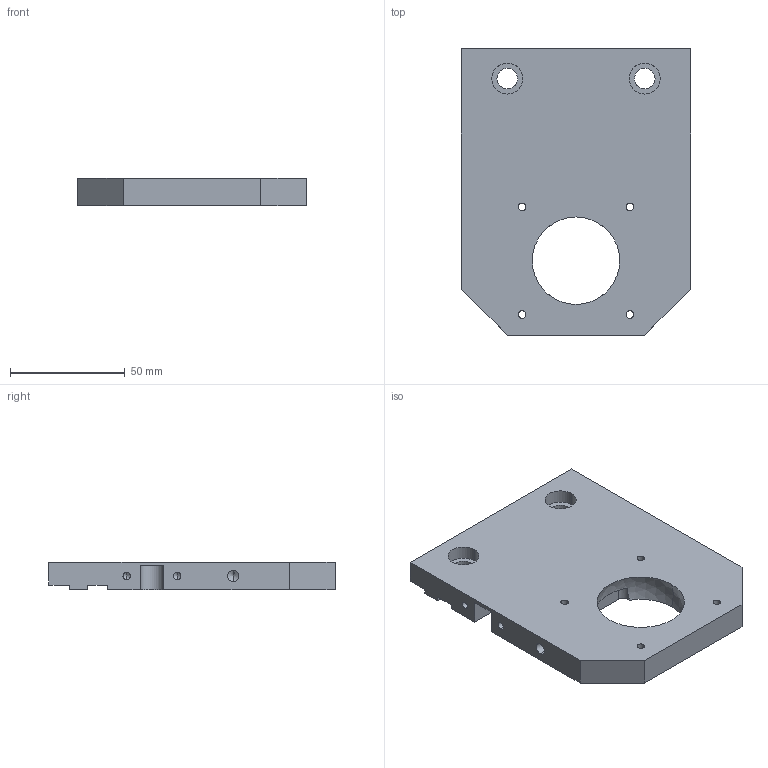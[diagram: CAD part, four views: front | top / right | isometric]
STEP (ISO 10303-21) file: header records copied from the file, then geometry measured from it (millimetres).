
FILE_DESCRIPTION (( 'STEP AP203' ), '1' );
FILE_NAME ('356.095.005.STEP', '2013-01-29T09:40:07', ( 'Alusic' ), ( 'Alusic' ), 'SwSTEP 2.0', 'SolidWorks 2011', '' );
FILE_SCHEMA (( 'CONFIG_CONTROL_DESIGN' ));
Length unit declared in the file: millimetre
Products named in the file (1): 356.095.005
Bounding box: 100 x 125 x 12 mm (x, y, z)
Volume: 113280.3 mm3; surface area: 32635.7 mm2
Topology: 1 solids, 1 shells, 85 faces, 241 edges, 150 vertices
Faces by surface type: plane 36, cylinder 35, cone 12, sphere 2
Entity records: 2772 total; most frequent: DIRECTION 485, CARTESIAN_POINT 471, ORIENTED_EDGE 450, EDGE_CURVE 225, AXIS2_PLACEMENT_3D 178, VERTEX_POINT 148, VECTOR 129, LINE 129
